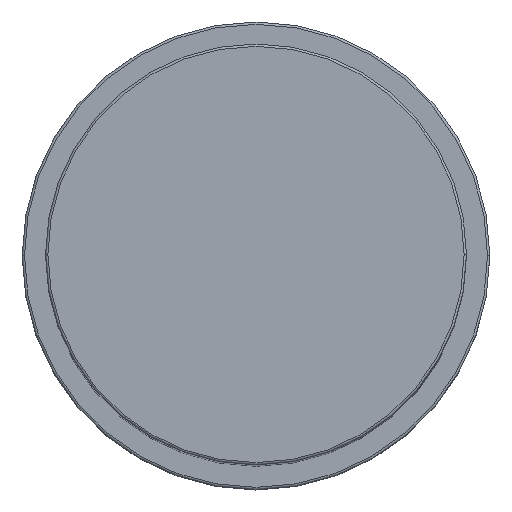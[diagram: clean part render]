
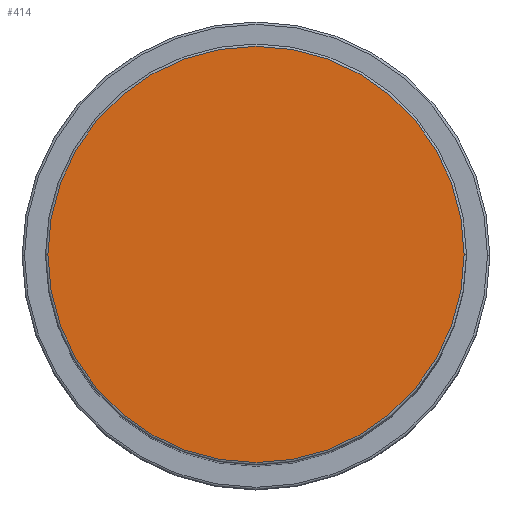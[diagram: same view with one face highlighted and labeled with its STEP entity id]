
A CAD part, top view. The second image highlights one B-rep face of the part: STEP entity #414.
In plain terms, the highlighted planar face has unit normal (0, 0, 1).
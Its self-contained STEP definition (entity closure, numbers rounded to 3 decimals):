
#414 = ADVANCED_FACE ( 'NONE', ( #7269 ), #4204, .T. ) ;
#545 = ORIENTED_EDGE ( 'NONE', *, *, #6970, .T. ) ;
#1017 = DIRECTION ( 'NONE',  ( 0., 0., 1. ) ) ;
#1036 = DIRECTION ( 'NONE',  ( 1., 0., 0. ) ) ;
#1039 = CARTESIAN_POINT ( 'NONE',  ( 44.5, 0., 189. ) ) ;
#1176 = VERTEX_POINT ( 'NONE', #1541 ) ;
#1246 = AXIS2_PLACEMENT_3D ( 'NONE', #4303, #2109, #6624 ) ;
#1541 = CARTESIAN_POINT ( 'NONE',  ( -44.5, 0., 189. ) ) ;
#1775 = EDGE_CURVE ( 'NONE', #6525, #1176, #4613, .T. ) ;
#2109 = DIRECTION ( 'NONE',  ( 0., 0., 1. ) ) ;
#3277 = AXIS2_PLACEMENT_3D ( 'NONE', #3884, #1017, #1036 ) ;
#3712 = CIRCLE ( 'NONE', #3818, 44.5 ) ;
#3818 = AXIS2_PLACEMENT_3D ( 'NONE', #6300, #5750, #6321 ) ;
#3868 = EDGE_LOOP ( 'NONE', ( #4589, #545 ) ) ;
#3884 = CARTESIAN_POINT ( 'NONE',  ( 0., 0., 189. ) ) ;
#4204 = PLANE ( 'NONE',  #1246 ) ;
#4303 = CARTESIAN_POINT ( 'NONE',  ( 0., 0., 189. ) ) ;
#4589 = ORIENTED_EDGE ( 'NONE', *, *, #1775, .T. ) ;
#4613 = CIRCLE ( 'NONE', #3277, 44.5 ) ;
#5750 = DIRECTION ( 'NONE',  ( 0., 0., 1. ) ) ;
#6300 = CARTESIAN_POINT ( 'NONE',  ( 0., 0., 189. ) ) ;
#6321 = DIRECTION ( 'NONE',  ( 1., 0., 0. ) ) ;
#6525 = VERTEX_POINT ( 'NONE', #1039 ) ;
#6624 = DIRECTION ( 'NONE',  ( 1., 0., 0. ) ) ;
#6970 = EDGE_CURVE ( 'NONE', #1176, #6525, #3712, .T. ) ;
#7269 = FACE_OUTER_BOUND ( 'NONE', #3868, .T. ) ;
